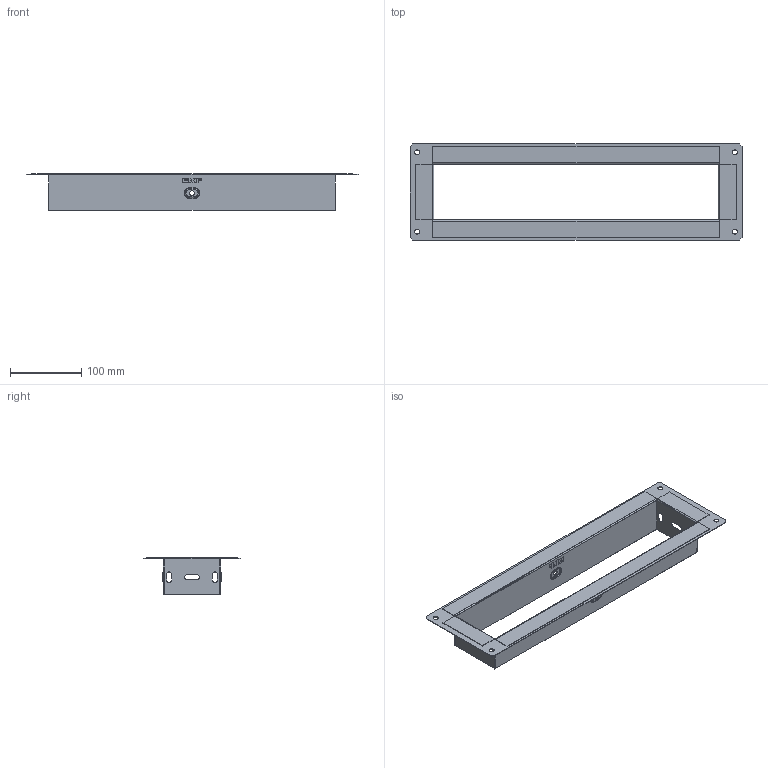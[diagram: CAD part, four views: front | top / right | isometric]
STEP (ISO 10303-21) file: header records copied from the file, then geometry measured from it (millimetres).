
FILE_DESCRIPTION (( 'STEP AP203' ), '1' );
FILE_NAME ('f80400_捘.STEP', '2020-01-23T12:30:40', ( '' ), ( '' ), 'SwSTEP 2.0', 'SolidWorks 2016', '' );
FILE_SCHEMA (( 'CONFIG_CONTROL_DESIGN' ));
Length unit declared in the file: millimetre
Products named in the file (9): f50400_2; f80400_1; f80300_3; f80400_捘
Assembly tree (5 placements, depth 2):
  f50400_2
  f80300_3
  f80300_3
  f80400_捘
    f80400_1
    f50400_2  x2
    f80300_3  x2
  f80400_1
Bounding box: 465 x 135 x 51.5 mm (x, y, z)
Volume: 80846.7 mm3; surface area: 206162 mm2
Topology: 5 solids, 5 shells, 314 faces, 816 edges, 528 vertices
Faces by surface type: plane 216, cylinder 64, bspline 18, torus 16
Entity records: 6402 total; most frequent: CARTESIAN_POINT 1382, ORIENTED_EDGE 876, DIRECTION 840, EDGE_CURVE 438, VECTOR 336, LINE 336, VERTEX_POINT 284, AXIS2_PLACEMENT_3D 252
